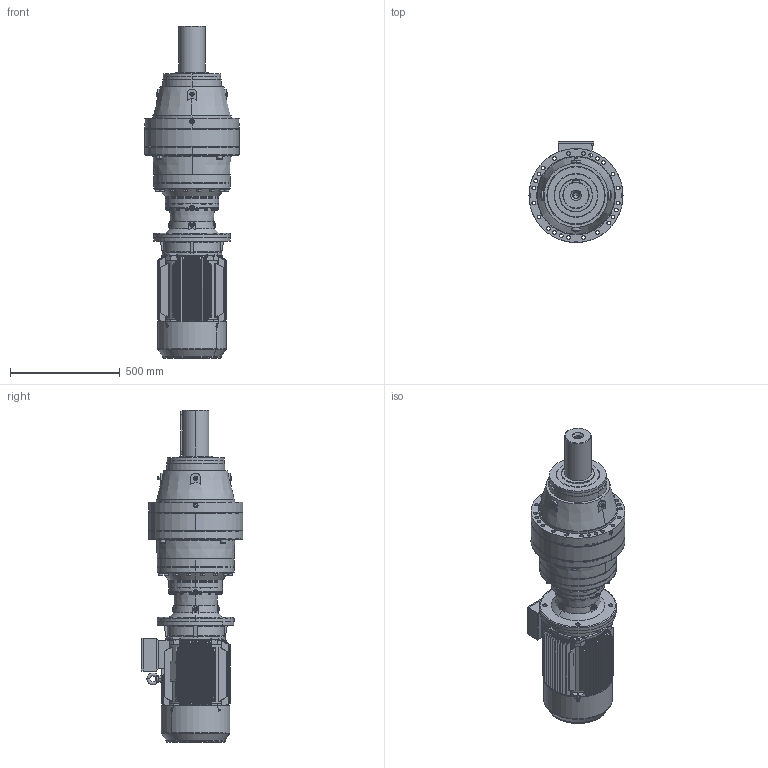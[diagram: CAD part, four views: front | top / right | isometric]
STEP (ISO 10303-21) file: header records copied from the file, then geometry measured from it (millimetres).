
FILE_DESCRIPTION (( 'STEP AP203' ), '1' );
FILE_NAME ('PVL-2903L-HS160L-4.STEP', '2019-05-24T07:36:18', ( '' ), ( '' ), 'SwSTEP 2.0', 'SolidWorks 2012', '' );
FILE_SCHEMA (( 'CONFIG_CONTROL_DESIGN' ));
Products named in the file (18): P29_Varsayìlan; Y2-160_shaft; M3-160L-FF-B5; PVL-2903L-HS160L-4; M3-HS160L-FF-B5; +¦i-MN2-160_-++ñ; Eyebolts GB_GB_FASTENER_SCREWS_FRS M12N; Y2-160-2ª¥--®+_-++ñ; Y2-160L+À+¿(B5)_-++ñ; Y2-160-180ñ»ª­®+_-++ñ; +ª+§ªiY2-160ñ»ª­_-++ñ; Y2-160-4Ý¾6Ý¾8-ª+---®+_-++ñ; Y2-160ñ»ª­+¿_-++ñ; PNL_2903L_0_0_A16_B5_ML49A_FL15A_0_0_0_0_0_0_0_0_0_0_0_M1; FL15A_Varsayìlan; EK2903L_Varsayìlan; ML49A_Varsayìlan; 15160B5_Varsayìlan
Assembly tree (17 placements, depth 5):
  PVL-2903L-HS160L-4
    PNL_2903L_0_0_A16_B5_ML49A_FL15A_0_0_0_0_0_0_0_0_0_0_0_M1
      P29_Varsayìlan
      15160B5_Varsayìlan
      ML49A_Varsayìlan
      EK2903L_Varsayìlan
      FL15A_Varsayìlan
    M3-HS160L-FF-B5
      M3-160L-FF-B5
        +ª+§ªiY2-160ñ»ª­_-++ñ
          Y2-160-180ñ»ª­®+_-++ñ
          Y2-160ñ»ª­+¿_-++ñ
        Y2-160-4Ý¾6Ý¾8-ª+---®+_-++ñ
        Y2-160L+À+¿(B5)_-++ñ
        Eyebolts GB_GB_FASTENER_SCREWS_FRS M12N
        Y2-160-2ª¥--®+_-++ñ
        +¦i-MN2-160_-++ñ
        Y2-160_shaft
Bounding box: 428 x 461 x 1511.5 mm (x, y, z)
Volume: 73610837.6 mm3; surface area: 4636726.6 mm2
Topology: 17 solids, 17 shells, 3475 faces, 9240 edges, 5831 vertices
Faces by surface type: cylinder 1315, plane 1311, bspline 503, cone 243, torus 63, sphere 40
Entity records: 158243 total; most frequent: CARTESIAN_POINT 74111, ORIENTED_EDGE 18176, DIRECTION 15982, EDGE_CURVE 9088, AXIS2_PLACEMENT_3D 6135, VERTEX_POINT 5816, EDGE_LOOP 3978, VECTOR 3712
